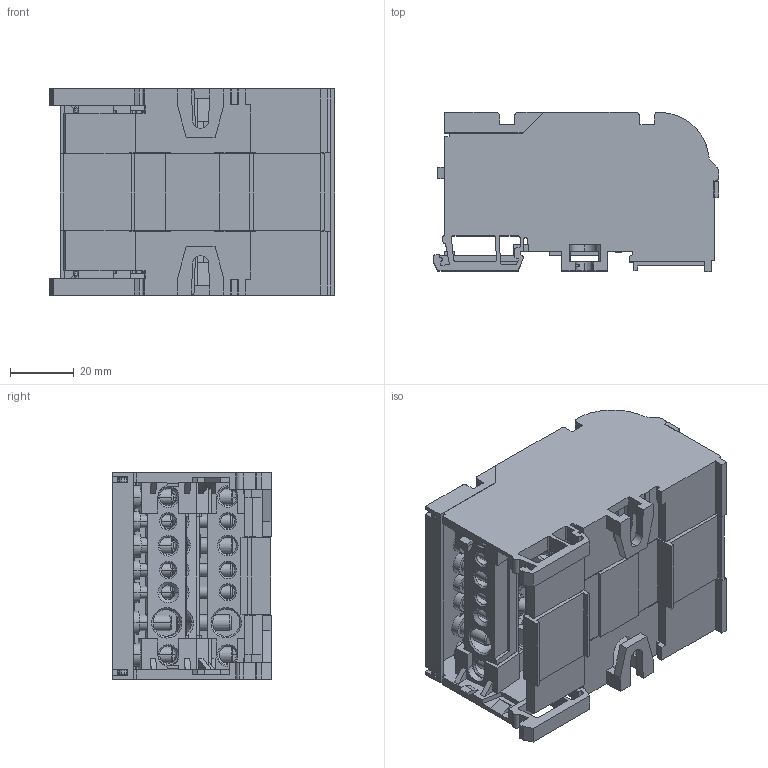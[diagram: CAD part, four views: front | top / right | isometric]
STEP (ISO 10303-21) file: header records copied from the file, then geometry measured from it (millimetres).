
FILE_DESCRIPTION (( 'STEP AP214' ), '1' );
FILE_NAME ('BDB407.STEP', '2018-02-22T14:36:19', ( '' ), ( '' ), 'SwSTEP 2.0', 'SolidWorks 2017', '' );
FILE_SCHEMA (( 'AUTOMOTIVE_DESIGN' ));
Length unit declared in the file: millimetre
Products named in the file (1): BDB407
Bounding box: 89.2 x 49.6 x 64.5 mm (x, y, z)
Volume: 75655.5 mm3; surface area: 85291.8 mm2
Topology: 38 solids, 38 shells, 2010 faces, 5436 edges, 3527 vertices
Faces by surface type: plane 1390, cylinder 363, cone 224, bspline 33
Entity records: 75993 total; most frequent: CARTESIAN_POINT 14591, ORIENTED_EDGE 10872, DIRECTION 10292, EDGE_CURVE 5436, LINE 4292, VECTOR 4292, VERTEX_POINT 3527, AXIS2_PLACEMENT_3D 3000
